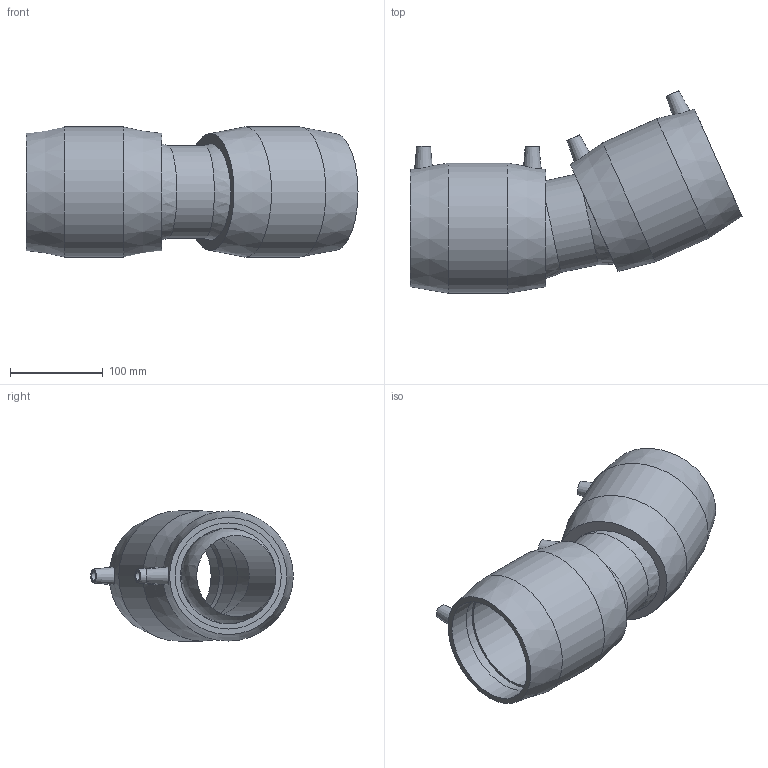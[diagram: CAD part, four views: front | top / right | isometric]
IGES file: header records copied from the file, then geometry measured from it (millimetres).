
Global section: file name: 5947B003040.ipt; native system: Autodesk Inventor 2019; preprocessor: unknown; author: KIM; date: 20210830.101213; units: inch
Bounding box: 357.02 x 217.82 x 139.95 mm (x, y, z)
Volume: 1775830.7 mm3; surface area: 308350.7 mm2
Topology: 1 solids, 1 shells, 50 faces, 114 edges, 78 vertices
Faces by surface type: plane 20, revolution 13, cone 8, cylinder 7, sphere 2
Full cylindrical faces by diameter (mm): 4 x4, 99.94 x1, 139.954 x2
